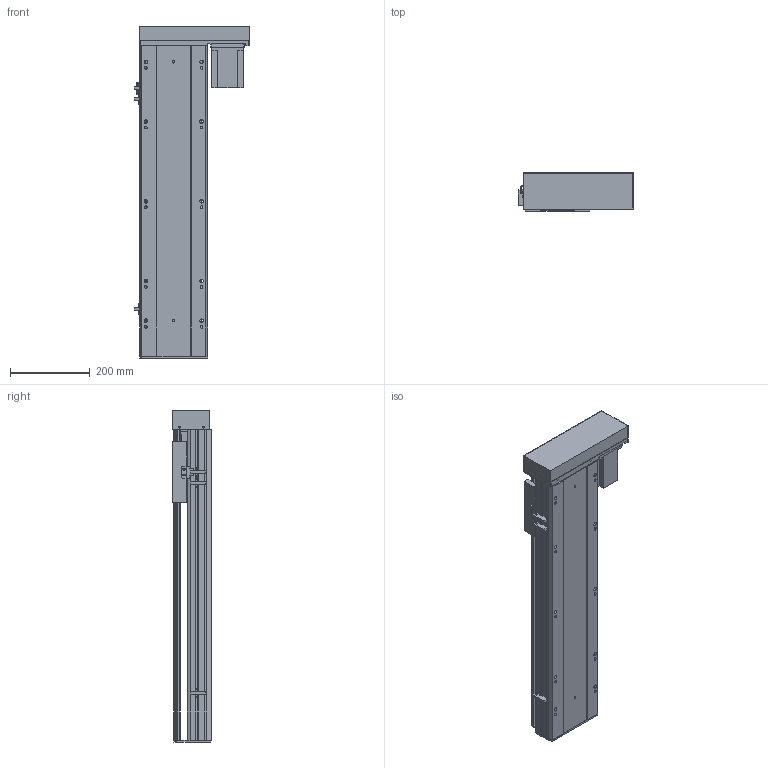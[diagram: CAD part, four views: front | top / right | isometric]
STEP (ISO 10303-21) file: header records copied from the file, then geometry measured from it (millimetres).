
FILE_DESCRIPTION (( 'STEP AP203' ), '1' );
FILE_NAME ('Y170-D10-S550-BR-P750W.STEP', '2020-01-21T12:20:27', ( '微软用户' ), ( '微软中国' ), 'SwSTEP 2.0', 'SolidWorks 2017', '' );
FILE_SCHEMA (( 'CONFIG_CONTROL_DESIGN' ));
Length unit declared in the file: millimetre
Products named in the file (12): EGH20賑輸_蕼偞; Y雄赽釱-耜蚾; Y170-陔遴奻裔-BR; Y-BL.BR-俋欶; Y--BL蟀諉啣-陔遴-; Y170耜裔--準---; YD-Y100-135-新外置传感挡片(通用）; 170--掛极-BR; Y100-135俋离換覜ん; Y170-BL-P750W楊擘啣; Y170-D10-S550-BR-P750W; 侂狟750W
Assembly tree (14 placements, depth 2):
  Y170-D10-S550-BR-P750W
    Y170耜裔--準---
    170--掛极-BR
    Y170-BL-P750W楊擘啣
    侂狟750W
    EGH20賑輸_蕼偞  x2
    Y雄赽釱-耜蚾
    Y170-陔遴奻裔-BR
    Y-BL.BR-俋欶
    Y--BL蟀諉啣-陔遴-
    YD-Y100-135-新外置传感挡片(通用）
    Y100-135俋离換覜ん  x3
Bounding box: 289 x 97 x 833.5 mm (x, y, z)
Volume: 4407945.1 mm3; surface area: 1480112.3 mm2
Topology: 14 solids, 14 shells, 909 faces, 2546 edges, 1680 vertices
Faces by surface type: cylinder 450, plane 443, cone 16
Entity records: 28570 total; most frequent: CARTESIAN_POINT 4998, DIRECTION 4748, ORIENTED_EDGE 4588, EDGE_CURVE 2294, AXIS2_PLACEMENT_3D 1682, VERTEX_POINT 1524, LINE 1384, VECTOR 1384
